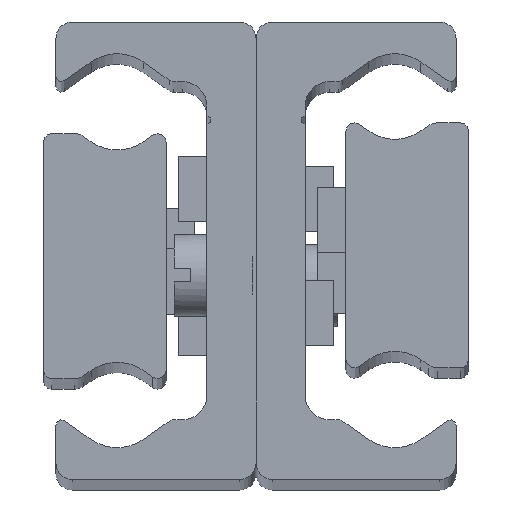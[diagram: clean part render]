
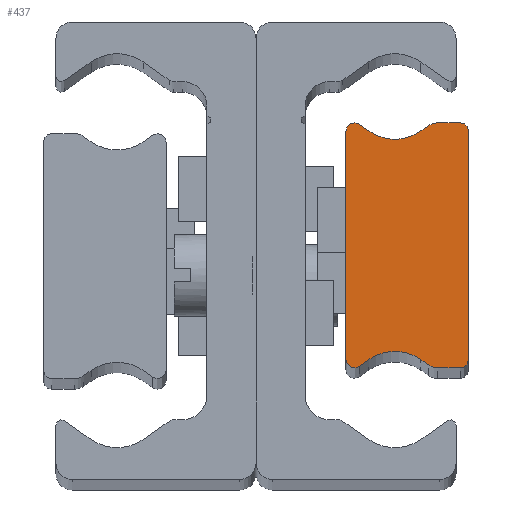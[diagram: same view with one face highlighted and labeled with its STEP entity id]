
A CAD part, top view. The second image highlights one B-rep face of the part: STEP entity #437.
In plain terms, the highlighted planar face has unit normal (0, 0, 1) as drawn and (0, 0, -1) by its records, which use the part's own axes.
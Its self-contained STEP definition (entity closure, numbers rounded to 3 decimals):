
#437 = ADVANCED_FACE( '', ( #898 ), #899, .F. );
#898 = FACE_OUTER_BOUND( '', #1372, .T. );
#899 = PLANE( '', #1373 );
#1372 = EDGE_LOOP( '', ( #2350, #2351, #2352, #2353, #2354, #2355, #2356, #2357, #2358, #2359, #2360, #2361, #2362, #2363, #2364, #2365 ) );
#1373 = AXIS2_PLACEMENT_3D( '', #2366, #2367, #2368 );
#2350 = ORIENTED_EDGE( '', *, *, #2849, .F. );
#2351 = ORIENTED_EDGE( '', *, *, #2997, .F. );
#2352 = ORIENTED_EDGE( '', *, *, #2709, .F. );
#2353 = ORIENTED_EDGE( '', *, *, #2888, .F. );
#2354 = ORIENTED_EDGE( '', *, *, #2965, .F. );
#2355 = ORIENTED_EDGE( '', *, *, #2998, .T. );
#2356 = ORIENTED_EDGE( '', *, *, #2647, .F. );
#2357 = ORIENTED_EDGE( '', *, *, #2885, .F. );
#2358 = ORIENTED_EDGE( '', *, *, #2999, .F. );
#2359 = ORIENTED_EDGE( '', *, *, #3000, .F. );
#2360 = ORIENTED_EDGE( '', *, *, #2920, .F. );
#2361 = ORIENTED_EDGE( '', *, *, #3001, .T. );
#2362 = ORIENTED_EDGE( '', *, *, #2968, .F. );
#2363 = ORIENTED_EDGE( '', *, *, #2738, .F. );
#2364 = ORIENTED_EDGE( '', *, *, #3002, .F. );
#2365 = ORIENTED_EDGE( '', *, *, #2660, .F. );
#2366 = CARTESIAN_POINT( '', ( 0.5, -7., -370. ) );
#2367 = DIRECTION( '', ( 0., 0., 1. ) );
#2368 = DIRECTION( '', ( 1., 0., 0. ) );
#2647 = EDGE_CURVE( '', #3112, #3114, #3115, .T. );
#2660 = EDGE_CURVE( '', #3135, #3137, #3138, .T. );
#2709 = EDGE_CURVE( '', #3222, #3224, #3225, .T. );
#2738 = EDGE_CURVE( '', #3271, #3273, #3274, .T. );
#2849 = EDGE_CURVE( '', #3443, #3135, #3445, .T. );
#2885 = EDGE_CURVE( '', #3494, #3112, #3496, .T. );
#2888 = EDGE_CURVE( '', #3498, #3222, #3500, .T. );
#2920 = EDGE_CURVE( '', #3541, #3543, #3544, .T. );
#2965 = EDGE_CURVE( '', #3602, #3498, #3604, .T. );
#2968 = EDGE_CURVE( '', #3273, #3607, #3608, .T. );
#2997 = EDGE_CURVE( '', #3224, #3443, #3642, .T. );
#2998 = EDGE_CURVE( '', #3602, #3114, #3643, .T. );
#2999 = EDGE_CURVE( '', #3644, #3494, #3645, .T. );
#3000 = EDGE_CURVE( '', #3543, #3644, #3646, .T. );
#3001 = EDGE_CURVE( '', #3541, #3607, #3647, .T. );
#3002 = EDGE_CURVE( '', #3137, #3271, #3648, .T. );
#3112 = VERTEX_POINT( '', #3782 );
#3114 = VERTEX_POINT( '', #3785 );
#3115 = LINE( '', #3786, #3787 );
#3135 = VERTEX_POINT( '', #3810 );
#3137 = VERTEX_POINT( '', #3813 );
#3138 = CIRCLE( '', #3814, 0.5 );
#3222 = VERTEX_POINT( '', #3923 );
#3224 = VERTEX_POINT( '', #3926 );
#3225 = LINE( '', #3927, #3928 );
#3271 = VERTEX_POINT( '', #3988 );
#3273 = VERTEX_POINT( '', #3991 );
#3274 = CIRCLE( '', #3992, 1. );
#3443 = VERTEX_POINT( '', #4211 );
#3445 = LINE( '', #4214, #4215 );
#3494 = VERTEX_POINT( '', #4277 );
#3496 = CIRCLE( '', #4280, 0.523 );
#3498 = VERTEX_POINT( '', #4282 );
#3500 = CIRCLE( '', #4285, 1. );
#3541 = VERTEX_POINT( '', #4341 );
#3543 = VERTEX_POINT( '', #4344 );
#3544 = LINE( '', #4345, #4346 );
#3602 = VERTEX_POINT( '', #4426 );
#3604 = LINE( '', #4429, #4430 );
#3607 = VERTEX_POINT( '', #4433 );
#3608 = LINE( '', #4434, #4435 );
#3642 = CIRCLE( '', #4478, 0.5 );
#3643 = CIRCLE( '', #4479, 2.778 );
#3644 = VERTEX_POINT( '', #4480 );
#3645 = LINE( '', #4481, #4482 );
#3646 = CIRCLE( '', #4483, 0.523 );
#3647 = CIRCLE( '', #4484, 2.778 );
#3648 = LINE( '', #4485, #4486 );
#3782 = CARTESIAN_POINT( '', ( 6.677, 7.405, -370. ) );
#3785 = CARTESIAN_POINT( '', ( 6.093, 6.997, -370. ) );
#3786 = CARTESIAN_POINT( '', ( 6.677, 7.405, -370. ) );
#3787 = VECTOR( '', #4595, 1000. );
#3810 = CARTESIAN_POINT( '', ( 0., -7., -370. ) );
#3813 = CARTESIAN_POINT( '', ( 0.5, -7.5, -370. ) );
#3814 = AXIS2_PLACEMENT_3D( '', #4615, #4616, #4617 );
#3923 = CARTESIAN_POINT( '', ( 1.873, 7.5, -370. ) );
#3926 = CARTESIAN_POINT( '', ( 0.5, 7.5, -370. ) );
#3927 = CARTESIAN_POINT( '', ( 1.873, 7.5, -370. ) );
#3928 = VECTOR( '', #4689, 1000. );
#3988 = CARTESIAN_POINT( '', ( 1.873, -7.5, -370. ) );
#3991 = CARTESIAN_POINT( '', ( 2.446, -7.319, -370. ) );
#3992 = AXIS2_PLACEMENT_3D( '', #4723, #4724, #4725 );
#4211 = CARTESIAN_POINT( '', ( 0., 7., -370. ) );
#4214 = CARTESIAN_POINT( '', ( 0., 7., -370. ) );
#4215 = VECTOR( '', #4873, 1000. );
#4277 = CARTESIAN_POINT( '', ( 7.5, 6.977, -370. ) );
#4280 = AXIS2_PLACEMENT_3D( '', #4915, #4916, #4917 );
#4282 = CARTESIAN_POINT( '', ( 2.446, 7.319, -370. ) );
#4285 = AXIS2_PLACEMENT_3D( '', #4919, #4920, #4921 );
#4341 = CARTESIAN_POINT( '', ( 6.093, -6.997, -370. ) );
#4344 = CARTESIAN_POINT( '', ( 6.677, -7.405, -370. ) );
#4345 = CARTESIAN_POINT( '', ( 6.093, -6.997, -370. ) );
#4346 = VECTOR( '', #4947, 1000. );
#4426 = CARTESIAN_POINT( '', ( 2.907, 6.997, -370. ) );
#4429 = CARTESIAN_POINT( '', ( 2.907, 6.997, -370. ) );
#4430 = VECTOR( '', #4989, 1000. );
#4433 = CARTESIAN_POINT( '', ( 2.907, -6.997, -370. ) );
#4434 = CARTESIAN_POINT( '', ( 2.446, -7.319, -370. ) );
#4435 = VECTOR( '', #4990, 1000. );
#4478 = AXIS2_PLACEMENT_3D( '', #5018, #5019, #5020 );
#4479 = AXIS2_PLACEMENT_3D( '', #5021, #5022, #5023 );
#4480 = CARTESIAN_POINT( '', ( 7.5, -6.977, -370. ) );
#4481 = CARTESIAN_POINT( '', ( 7.5, -6.977, -370. ) );
#4482 = VECTOR( '', #5024, 1000. );
#4483 = AXIS2_PLACEMENT_3D( '', #5025, #5026, #5027 );
#4484 = AXIS2_PLACEMENT_3D( '', #5028, #5029, #5030 );
#4485 = CARTESIAN_POINT( '', ( 0.5, -7.5, -370. ) );
#4486 = VECTOR( '', #5031, 1000. );
#4595 = DIRECTION( '', ( -0.819, -0.574, 0. ) );
#4615 = CARTESIAN_POINT( '', ( 0.5, -7., -370. ) );
#4616 = DIRECTION( '', ( 0., 0., 1. ) );
#4617 = DIRECTION( '', ( 1., 0., 0. ) );
#4689 = DIRECTION( '', ( -1., 0., 0. ) );
#4723 = CARTESIAN_POINT( '', ( 1.873, -6.5, -370. ) );
#4724 = DIRECTION( '', ( 0., 0., 1. ) );
#4725 = DIRECTION( '', ( 1., 0., 0. ) );
#4873 = DIRECTION( '', ( 0., -1., 0. ) );
#4915 = CARTESIAN_POINT( '', ( 6.977, 6.977, -370. ) );
#4916 = DIRECTION( '', ( 0., 0., 1. ) );
#4917 = DIRECTION( '', ( 1., 0., 0. ) );
#4919 = CARTESIAN_POINT( '', ( 1.873, 6.5, -370. ) );
#4920 = DIRECTION( '', ( 0., 0., 1. ) );
#4921 = DIRECTION( '', ( 1., 0., 0. ) );
#4947 = DIRECTION( '', ( 0.819, -0.574, 0. ) );
#4989 = DIRECTION( '', ( -0.819, 0.574, 0. ) );
#4990 = DIRECTION( '', ( 0.819, 0.574, 0. ) );
#5018 = CARTESIAN_POINT( '', ( 0.5, 7., -370. ) );
#5019 = DIRECTION( '', ( 0., 0., 1. ) );
#5020 = DIRECTION( '', ( 1., 0., 0. ) );
#5021 = CARTESIAN_POINT( '', ( 4.5, 9.272, -370. ) );
#5022 = DIRECTION( '', ( 0., 0., 1. ) );
#5023 = DIRECTION( '', ( 1., 0., 0. ) );
#5024 = DIRECTION( '', ( 0., 1., 0. ) );
#5025 = CARTESIAN_POINT( '', ( 6.977, -6.977, -370. ) );
#5026 = DIRECTION( '', ( 0., 0., 1. ) );
#5027 = DIRECTION( '', ( 1., 0., 0. ) );
#5028 = CARTESIAN_POINT( '', ( 4.5, -9.272, -370. ) );
#5029 = DIRECTION( '', ( 0., 0., 1. ) );
#5030 = DIRECTION( '', ( 1., 0., 0. ) );
#5031 = DIRECTION( '', ( 1., 0., 0. ) );
